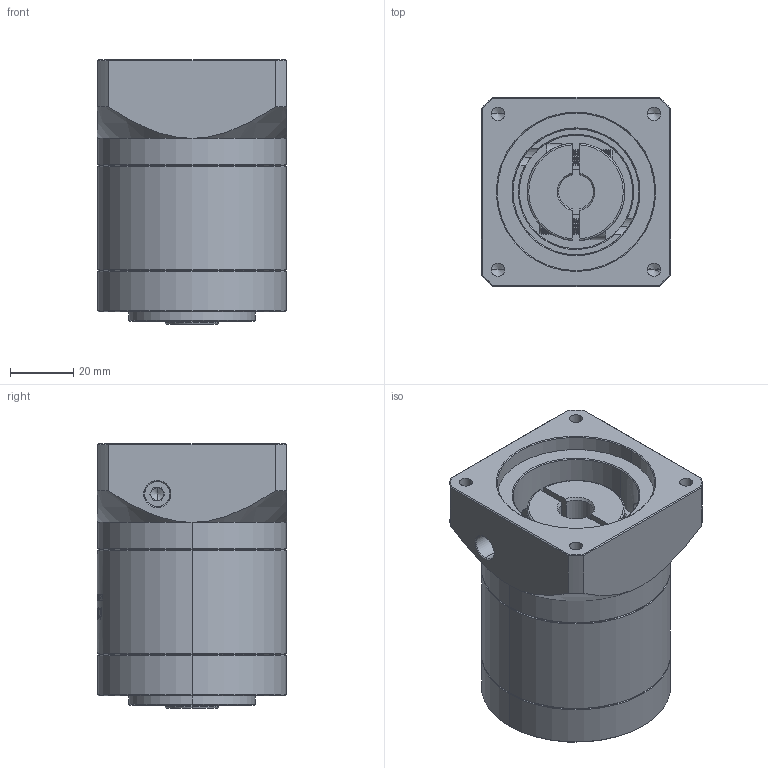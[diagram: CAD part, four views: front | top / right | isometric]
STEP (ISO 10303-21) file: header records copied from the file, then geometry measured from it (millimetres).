
FILE_DESCRIPTION (( 'STEP AP214' ), '1' );
FILE_NAME ('ZE60-K10-L1-11-50-70-M5.STEP', '2022-04-17T15:17:49', ( '' ), ( 'Microsoft' ), 'SwSTEP 2.0', 'SolidWorks 2016', '' );
FILE_SCHEMA (( 'AUTOMOTIVE_DESIGN' ));
Length unit declared in the file: millimetre
Products named in the file (1): ZE60-K10-L1-11-50-70-M5
Bounding box: 60 x 60 x 84 mm (x, y, z)
Volume: 206597.8 mm3; surface area: 41425.5 mm2
Topology: 6 solids, 6 shells, 1533 faces, 4157 edges, 2695 vertices
Faces by surface type: plane 717, cylinder 292, bspline 292, cone 214, torus 18
Entity records: 84176 total; most frequent: CARTESIAN_POINT 32111, ORIENTED_EDGE 8274, DIRECTION 6091, EDGE_CURVE 4137, VERTEX_POINT 2695, VECTOR 2143, LINE 2143, AXIS2_PLACEMENT_3D 1974
